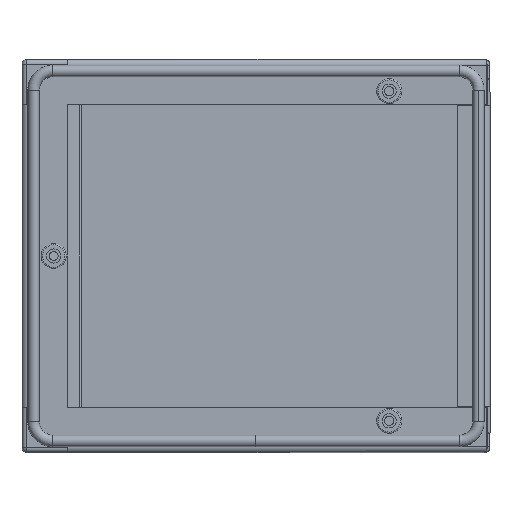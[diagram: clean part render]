
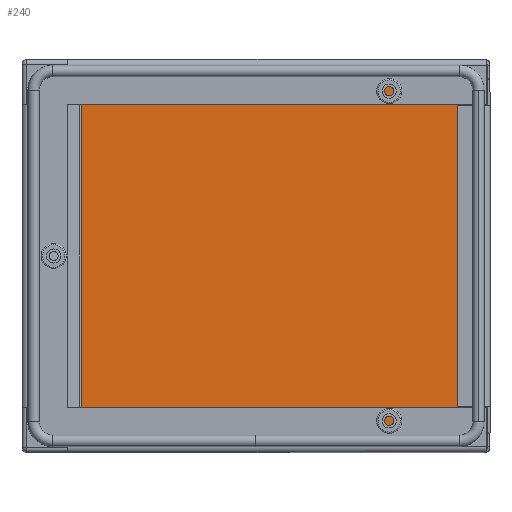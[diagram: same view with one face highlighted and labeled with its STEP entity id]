
A CAD part, left-side view. The second image highlights one B-rep face of the part: STEP entity #240.
In plain terms, the highlighted planar face has unit normal (-1, 0, 0).
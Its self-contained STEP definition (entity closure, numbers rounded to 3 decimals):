
#174 = CARTESIAN_POINT ( 'NONE',  ( -1.4, 103.699, 99.6 ) ) ;
#240 = ADVANCED_FACE ( 'NONE', ( #3597 ), #3309, .T. ) ;
#266 = VECTOR ( 'NONE', #3929, 1000. ) ;
#327 = CARTESIAN_POINT ( 'NONE',  ( -1.4, 103.699, -99.6 ) ) ;
#418 = LINE ( 'NONE', #3481, #2109 ) ;
#915 = VERTEX_POINT ( 'NONE', #327 ) ;
#1084 = DIRECTION ( 'NONE',  ( 0., 1., 0. ) ) ;
#1190 = DIRECTION ( 'NONE',  ( 0., 0., 1. ) ) ;
#1204 = CARTESIAN_POINT ( 'NONE',  ( -1.4, 0., 0. ) ) ;
#1534 = CARTESIAN_POINT ( 'NONE',  ( -1.4, 103.699, 99.6 ) ) ;
#1613 = EDGE_CURVE ( 'NONE', #915, #3463, #3774, .T. ) ;
#1633 = VERTEX_POINT ( 'NONE', #4845 ) ;
#1635 = DIRECTION ( 'NONE',  ( -1., 0., 0. ) ) ;
#1739 = VECTOR ( 'NONE', #2827, 1000. ) ;
#2109 = VECTOR ( 'NONE', #3932, 1000. ) ;
#2380 = CARTESIAN_POINT ( 'NONE',  ( -1.4, -106.3, -99.6 ) ) ;
#2529 = ORIENTED_EDGE ( 'NONE', *, *, #3267, .F. ) ;
#2827 = DIRECTION ( 'NONE',  ( 0., -1., 0. ) ) ;
#3237 = EDGE_LOOP ( 'NONE', ( #5178, #4472, #4612, #2529 ) ) ;
#3267 = EDGE_CURVE ( 'NONE', #3463, #1633, #3391, .T. ) ;
#3309 = PLANE ( 'NONE',  #4296 ) ;
#3337 = LINE ( 'NONE', #2380, #4712 ) ;
#3391 = LINE ( 'NONE', #1534, #1739 ) ;
#3463 = VERTEX_POINT ( 'NONE', #174 ) ;
#3481 = CARTESIAN_POINT ( 'NONE',  ( -1.4, -106.3, 100.8 ) ) ;
#3597 = FACE_OUTER_BOUND ( 'NONE', #3237, .T. ) ;
#3603 = EDGE_CURVE ( 'NONE', #3864, #915, #3337, .T. ) ;
#3774 = LINE ( 'NONE', #5275, #266 ) ;
#3864 = VERTEX_POINT ( 'NONE', #4609 ) ;
#3929 = DIRECTION ( 'NONE',  ( 0., 0., 1. ) ) ;
#3932 = DIRECTION ( 'NONE',  ( 0., 0., -1. ) ) ;
#4296 = AXIS2_PLACEMENT_3D ( 'NONE', #1204, #1635, #1190 ) ;
#4472 = ORIENTED_EDGE ( 'NONE', *, *, #3603, .F. ) ;
#4609 = CARTESIAN_POINT ( 'NONE',  ( -1.4, -106.3, -99.6 ) ) ;
#4612 = ORIENTED_EDGE ( 'NONE', *, *, #5360, .F. ) ;
#4712 = VECTOR ( 'NONE', #1084, 1000. ) ;
#4845 = CARTESIAN_POINT ( 'NONE',  ( -1.4, -106.3, 99.6 ) ) ;
#5178 = ORIENTED_EDGE ( 'NONE', *, *, #1613, .F. ) ;
#5275 = CARTESIAN_POINT ( 'NONE',  ( -1.4, 103.699, -100.8 ) ) ;
#5360 = EDGE_CURVE ( 'NONE', #1633, #3864, #418, .T. ) ;
